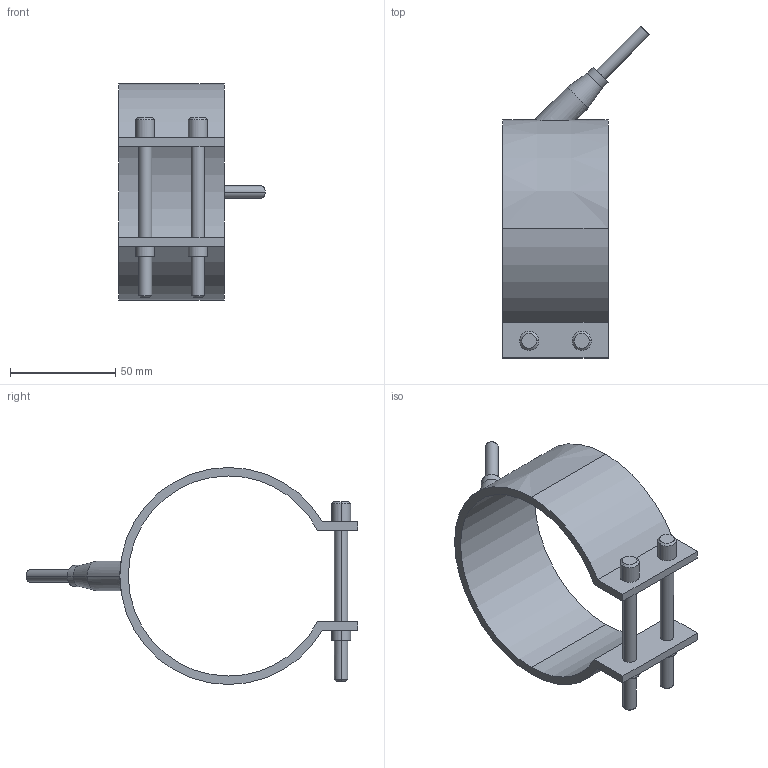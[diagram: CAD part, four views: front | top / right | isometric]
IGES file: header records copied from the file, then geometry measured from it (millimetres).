
Start section: START RECORD GO HERE.
Global section: file name: 29095050.igs; native system: DASSAULT SYSTEMES CATIA V5 R20 - www.3ds.com; preprocessor: CATIA Version 5 Release 20 ; author: Utente; organization: NB04-ASUS; date: 20210329.195228; units: millimetre
Bounding box: 69.55 x 157.55 x 103 mm (x, y, z)
Surface area: 37340.7 mm2 (no closed solid volume)
Topology: 0 solids, 0 shells, 54 faces, 246 edges, 246 vertices
Faces by surface type: revolution 38, plane 16
